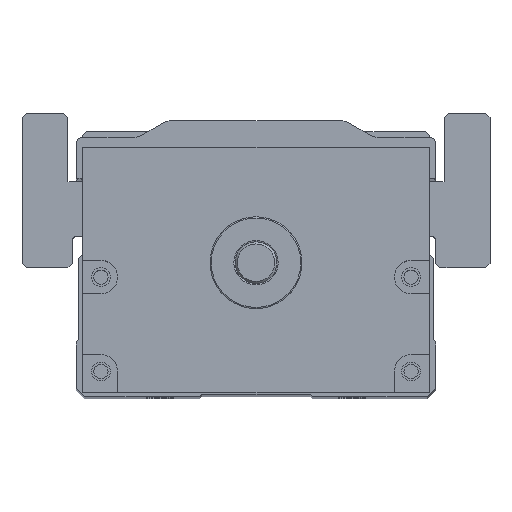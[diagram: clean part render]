
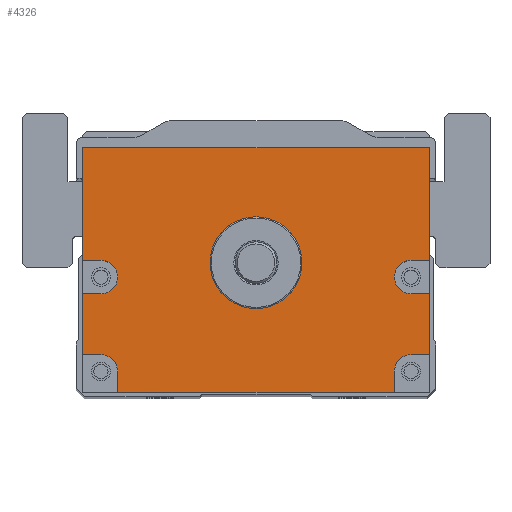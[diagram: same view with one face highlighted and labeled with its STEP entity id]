
A CAD part, top view. The second image highlights one B-rep face of the part: STEP entity #4326.
In plain terms, the highlighted planar face has unit normal (0, 0, 1).
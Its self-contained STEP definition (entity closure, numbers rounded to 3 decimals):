
#3708=FACE_BOUND('',#5894,.T.);
#3709=FACE_BOUND('',#5895,.T.);
#4326=ADVANCED_FACE('',(#3708,#3709),#4819,.T.);
#4819=PLANE('',#14577);
#5894=EDGE_LOOP('',(#9635,#9636,#9637,#9638,#9639,#9640,#9641,#9642,#9643,
#9644,#9645,#9646,#9647,#9648,#9649,#9650,#9651,#9652));
#5895=EDGE_LOOP('',(#9653));
#6794=LINE('',#20578,#7587);
#6796=LINE('',#20586,#7589);
#6797=LINE('',#20589,#7590);
#6798=LINE('',#20591,#7591);
#6799=LINE('',#20595,#7592);
#6800=LINE('',#20597,#7593);
#6801=LINE('',#20598,#7594);
#6802=LINE('',#20600,#7595);
#6803=LINE('',#20604,#7596);
#6804=LINE('',#20606,#7597);
#6805=LINE('',#20608,#7598);
#6806=LINE('',#20612,#7599);
#6807=LINE('',#20614,#7600);
#6808=LINE('',#20616,#7601);
#7587=VECTOR('',#16758,1.);
#7589=VECTOR('',#16766,1.);
#7590=VECTOR('',#16767,1.);
#7591=VECTOR('',#16768,1.);
#7592=VECTOR('',#16771,1.);
#7593=VECTOR('',#16772,1.);
#7594=VECTOR('',#16773,1.);
#7595=VECTOR('',#16774,1.);
#7596=VECTOR('',#16777,1.);
#7597=VECTOR('',#16778,1.);
#7598=VECTOR('',#16779,1.);
#7599=VECTOR('',#16782,1.);
#7600=VECTOR('',#16783,1.);
#7601=VECTOR('',#16784,1.);
#9635=ORIENTED_EDGE('',*,*,#12870,.F.);
#9636=ORIENTED_EDGE('',*,*,#12871,.T.);
#9637=ORIENTED_EDGE('',*,*,#12872,.F.);
#9638=ORIENTED_EDGE('',*,*,#12873,.F.);
#9639=ORIENTED_EDGE('',*,*,#12874,.F.);
#9640=ORIENTED_EDGE('',*,*,#12875,.T.);
#9641=ORIENTED_EDGE('',*,*,#12866,.T.);
#9642=ORIENTED_EDGE('',*,*,#12876,.T.);
#9643=ORIENTED_EDGE('',*,*,#12877,.F.);
#9644=ORIENTED_EDGE('',*,*,#12878,.F.);
#9645=ORIENTED_EDGE('',*,*,#12879,.F.);
#9646=ORIENTED_EDGE('',*,*,#12880,.T.);
#9647=ORIENTED_EDGE('',*,*,#12881,.F.);
#9648=ORIENTED_EDGE('',*,*,#12882,.F.);
#9649=ORIENTED_EDGE('',*,*,#12883,.F.);
#9650=ORIENTED_EDGE('',*,*,#12884,.T.);
#9651=ORIENTED_EDGE('',*,*,#12885,.F.);
#9652=ORIENTED_EDGE('',*,*,#12886,.F.);
#9653=ORIENTED_EDGE('',*,*,#12852,.T.);
#11522=VERTEX_POINT('',#20549);
#11535=VERTEX_POINT('',#20577);
#11536=VERTEX_POINT('',#20579);
#11539=VERTEX_POINT('',#20587);
#11540=VERTEX_POINT('',#20588);
#11541=VERTEX_POINT('',#20590);
#11542=VERTEX_POINT('',#20592);
#11543=VERTEX_POINT('',#20594);
#11544=VERTEX_POINT('',#20596);
#11545=VERTEX_POINT('',#20599);
#11546=VERTEX_POINT('',#20601);
#11547=VERTEX_POINT('',#20603);
#11548=VERTEX_POINT('',#20605);
#11549=VERTEX_POINT('',#20607);
#11550=VERTEX_POINT('',#20609);
#11551=VERTEX_POINT('',#20611);
#11552=VERTEX_POINT('',#20613);
#11553=VERTEX_POINT('',#20615);
#11554=VERTEX_POINT('',#20617);
#12852=EDGE_CURVE('',#11522,#11522,#13747,.T.);
#12866=EDGE_CURVE('',#11536,#11535,#6794,.T.);
#12870=EDGE_CURVE('',#11539,#11540,#6796,.T.);
#12871=EDGE_CURVE('',#11539,#11541,#6797,.T.);
#12872=EDGE_CURVE('',#11542,#11541,#6798,.T.);
#12873=EDGE_CURVE('',#11543,#11542,#13758,.T.);
#12874=EDGE_CURVE('',#11544,#11543,#6799,.T.);
#12875=EDGE_CURVE('',#11544,#11536,#6800,.T.);
#12876=EDGE_CURVE('',#11535,#11545,#6801,.T.);
#12877=EDGE_CURVE('',#11546,#11545,#6802,.T.);
#12878=EDGE_CURVE('',#11547,#11546,#13759,.T.);
#12879=EDGE_CURVE('',#11548,#11547,#6803,.T.);
#12880=EDGE_CURVE('',#11548,#11549,#6804,.T.);
#12881=EDGE_CURVE('',#11550,#11549,#6805,.T.);
#12882=EDGE_CURVE('',#11551,#11550,#13760,.T.);
#12883=EDGE_CURVE('',#11552,#11551,#6806,.T.);
#12884=EDGE_CURVE('',#11552,#11553,#6807,.T.);
#12885=EDGE_CURVE('',#11554,#11553,#6808,.T.);
#12886=EDGE_CURVE('',#11540,#11554,#13761,.T.);
#13747=CIRCLE('',#14559,11.);
#13758=CIRCLE('',#14573,4.);
#13759=CIRCLE('',#14574,4.);
#13760=CIRCLE('',#14575,4.);
#13761=CIRCLE('',#14576,4.);
#14559=AXIS2_PLACEMENT_3D('',#20548,#16731,#16732);
#14573=AXIS2_PLACEMENT_3D('',#20593,#16769,#16770);
#14574=AXIS2_PLACEMENT_3D('',#20602,#16775,#16776);
#14575=AXIS2_PLACEMENT_3D('',#20610,#16780,#16781);
#14576=AXIS2_PLACEMENT_3D('',#20618,#16785,#16786);
#14577=AXIS2_PLACEMENT_3D('',#20619,#16787,#16788);
#16731=DIRECTION('',(0.,0.,-1.));
#16732=DIRECTION('',(1.,0.,0.));
#16758=DIRECTION('',(-1.,0.,0.));
#16766=DIRECTION('',(-1.,0.,0.));
#16767=DIRECTION('',(0.,1.,0.));
#16768=DIRECTION('',(1.,0.,0.));
#16769=DIRECTION('',(0.,0.,1.));
#16770=DIRECTION('',(1.,0.,0.));
#16771=DIRECTION('',(-1.,0.,0.));
#16772=DIRECTION('',(0.,1.,0.));
#16773=DIRECTION('',(0.,-1.,0.));
#16774=DIRECTION('',(-1.,0.,0.));
#16775=DIRECTION('',(0.,0.,1.));
#16776=DIRECTION('',(1.,0.,0.));
#16777=DIRECTION('',(1.,0.,0.));
#16778=DIRECTION('',(0.,-1.,0.));
#16779=DIRECTION('',(-1.,0.,0.));
#16780=DIRECTION('',(0.,0.,1.));
#16781=DIRECTION('',(1.,0.,0.));
#16782=DIRECTION('',(0.,1.,0.));
#16783=DIRECTION('',(1.,0.,0.));
#16784=DIRECTION('',(0.,-1.,0.));
#16785=DIRECTION('',(0.,0.,1.));
#16786=DIRECTION('',(1.,0.,0.));
#16787=DIRECTION('',(0.,0.,1.));
#16788=DIRECTION('',(1.,0.,0.));
#20548=CARTESIAN_POINT('',(750.,0.,182.5));
#20549=CARTESIAN_POINT('',(761.,0.,182.5));
#20577=CARTESIAN_POINT('',(708.5,27.5,182.5));
#20578=CARTESIAN_POINT('',(791.5,27.5,182.5));
#20579=CARTESIAN_POINT('',(791.5,27.5,182.5));
#20586=CARTESIAN_POINT('',(791.5,-22.,182.5));
#20587=CARTESIAN_POINT('',(791.5,-22.,182.5));
#20588=CARTESIAN_POINT('',(787.115,-22.,182.5));
#20589=CARTESIAN_POINT('',(791.5,-31.,182.5));
#20590=CARTESIAN_POINT('',(791.5,-7.431,182.5));
#20591=CARTESIAN_POINT('',(791.5,-7.431,182.5));
#20592=CARTESIAN_POINT('',(787.115,-7.431,182.5));
#20593=CARTESIAN_POINT('',(787.115,-3.431,182.5));
#20594=CARTESIAN_POINT('',(787.115,0.569,182.5));
#20595=CARTESIAN_POINT('',(791.5,0.569,182.5));
#20596=CARTESIAN_POINT('',(791.5,0.569,182.5));
#20597=CARTESIAN_POINT('',(791.5,-31.,182.5));
#20598=CARTESIAN_POINT('',(708.5,27.5,182.5));
#20599=CARTESIAN_POINT('',(708.5,0.569,182.5));
#20600=CARTESIAN_POINT('',(791.5,0.569,182.5));
#20601=CARTESIAN_POINT('',(712.885,0.569,182.5));
#20602=CARTESIAN_POINT('',(712.885,-3.431,182.5));
#20603=CARTESIAN_POINT('',(712.885,-7.431,182.5));
#20604=CARTESIAN_POINT('',(791.5,-7.431,182.5));
#20605=CARTESIAN_POINT('',(708.5,-7.431,182.5));
#20606=CARTESIAN_POINT('',(708.5,27.5,182.5));
#20607=CARTESIAN_POINT('',(708.5,-22.,182.5));
#20608=CARTESIAN_POINT('',(791.5,-22.,182.5));
#20609=CARTESIAN_POINT('',(712.885,-22.,182.5));
#20610=CARTESIAN_POINT('',(712.885,-26.,182.5));
#20611=CARTESIAN_POINT('',(716.885,-26.,182.5));
#20612=CARTESIAN_POINT('',(716.885,-31.,182.5));
#20613=CARTESIAN_POINT('',(716.885,-31.,182.5));
#20614=CARTESIAN_POINT('',(708.5,-31.,182.5));
#20615=CARTESIAN_POINT('',(783.115,-31.,182.5));
#20616=CARTESIAN_POINT('',(783.115,-31.,182.5));
#20617=CARTESIAN_POINT('',(783.115,-26.,182.5));
#20618=CARTESIAN_POINT('',(787.115,-26.,182.5));
#20619=CARTESIAN_POINT('',(791.5,-31.,182.5));
